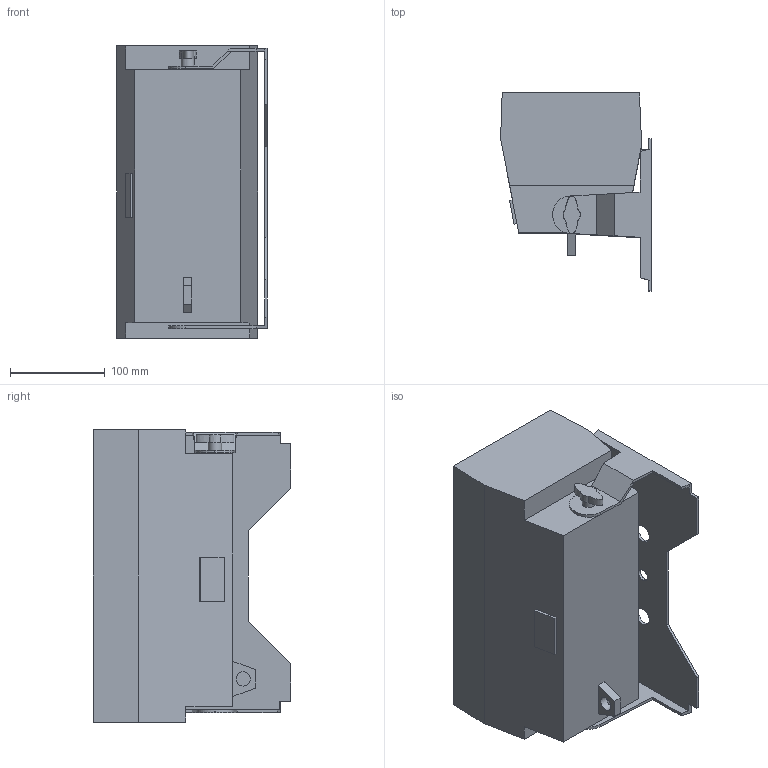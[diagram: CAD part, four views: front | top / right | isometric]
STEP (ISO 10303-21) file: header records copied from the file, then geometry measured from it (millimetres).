
FILE_DESCRIPTION(/* description */ (''),/* implementation_level */ '2;1');
FILE_NAME(/* name */ 'COLORado Solo Bar 1_90_3D.stp',/* time_stamp */ '2024-04-30T10:31:38-04:00',/* author */ ('dgooch'),/* organization */ (''),/* preprocessor_version */ 'ST-DEVELOPER v20',/* originating_system */ 'Autodesk Inventor 2024',/* authorisation */ '');
FILE_SCHEMA (('AUTOMOTIVE_DESIGN { 1 0 10303 214 3 1 1 }'));
Length unit declared in the file: millimetre
Products named in the file (3): COLORado Solo Bar 1_0; Component2; Component3
Assembly tree (2 placements, depth 2):
  COLORado Solo Bar 1_0
    Component2
    Component3
Bounding box: 159.02 x 208.39 x 308.1 mm (x, y, z)
Volume: 5912905.4 mm3; surface area: 308865.9 mm2
Topology: 2 solids, 2 shells, 99 faces, 252 edges, 166 vertices
Faces by surface type: plane 82, cylinder 13, cone 2, bspline 2
Full cylindrical faces by diameter (mm): 13 x1, 14 x3, 15 x1, 19 x2
Entity records: 4671 total; most frequent: CARTESIAN_POINT 2126, ORIENTED_EDGE 504, DIRECTION 478, EDGE_CURVE 252, LINE 214, VECTOR 214, VERTEX_POINT 166, AXIS2_PLACEMENT_3D 132
